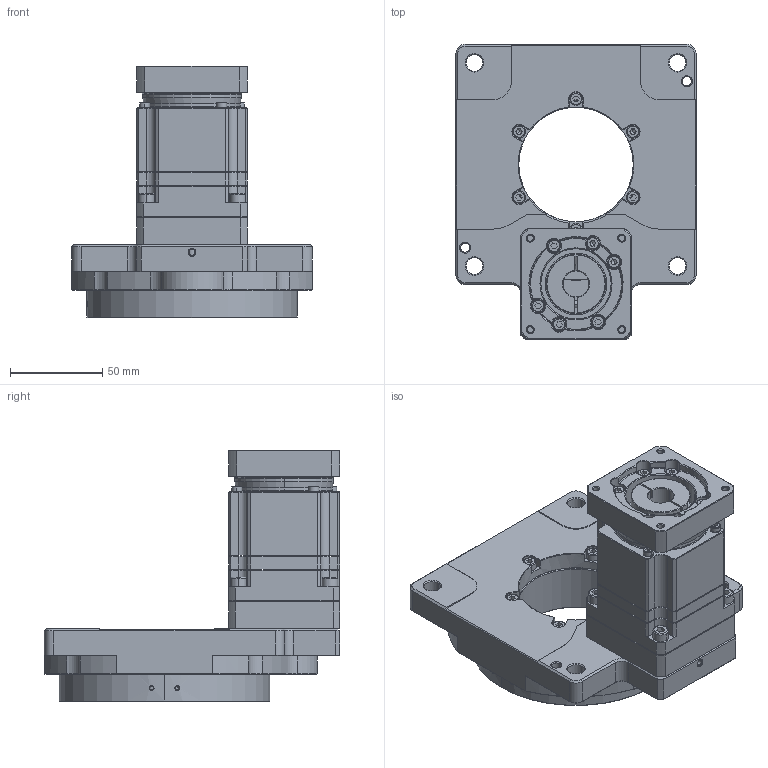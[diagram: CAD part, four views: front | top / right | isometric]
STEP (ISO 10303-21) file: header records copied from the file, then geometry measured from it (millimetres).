
FILE_DESCRIPTION (( 'STEP AP203' ), '1' );
FILE_NAME ('HRG130A.STEP', '2020-06-24T05:40:31', ( '' ), ( '' ), 'SwSTEP 2.0', 'SolidWorks 2012', '' );
FILE_SCHEMA (( 'CONFIG_CONTROL_DESIGN' ));
Length unit declared in the file: millimetre
Products named in the file (1): HRG130A
Bounding box: 130 x 159.8 x 136.3 mm (x, y, z)
Surface area: 109523.1 mm2 (no closed solid volume)
Topology: 0 solids, 44 shells, 882 faces, 2439 edges, 1541 vertices
Faces by surface type: plane 343, cone 260, cylinder 214, torus 55, bspline 10
Entity records: 28393 total; most frequent: CARTESIAN_POINT 6149, DIRECTION 4838, ORIENTED_EDGE 4182, EDGE_CURVE 2413, AXIS2_PLACEMENT_3D 1835, VERTEX_POINT 1541, LINE 1168, VECTOR 1168
